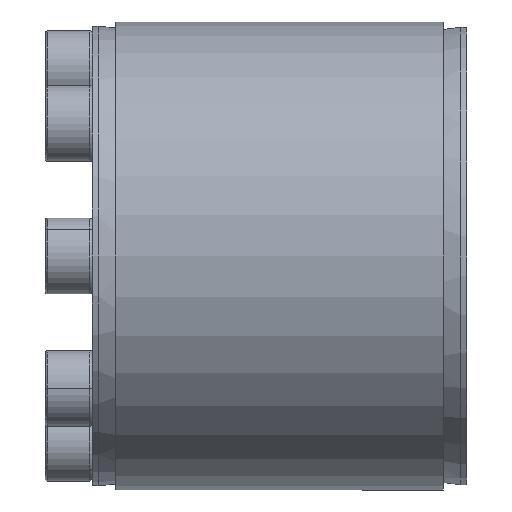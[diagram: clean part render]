
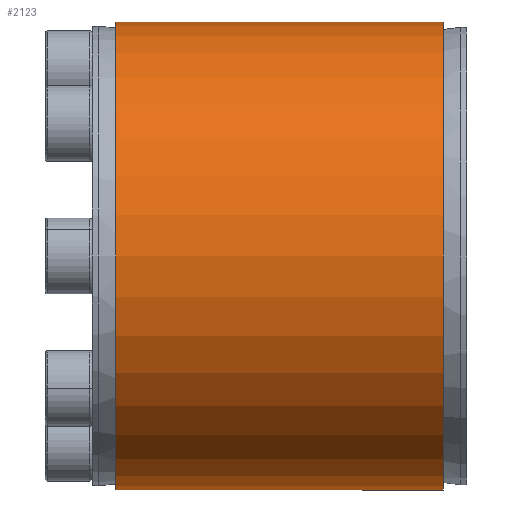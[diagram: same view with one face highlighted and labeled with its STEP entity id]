
A CAD part, front view. The second image highlights one B-rep face of the part: STEP entity #2123.
In plain terms, the highlighted cylindrical face has radius 40 mm (diameter 80 mm), a partial arc.
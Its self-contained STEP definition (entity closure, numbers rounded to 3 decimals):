
#7 = DIRECTION ( 'NONE',  ( -1., 0., 0. ) ) ;
#57 = EDGE_LOOP ( 'NONE', ( #3432, #4943, #5745, #4890 ) ) ;
#63 = DIRECTION ( 'NONE',  ( 0., 0., 1. ) ) ;
#119 = EDGE_CURVE ( 'NONE', #3361, #300, #4865, .T. ) ;
#300 = VERTEX_POINT ( 'NONE', #3541 ) ;
#387 = AXIS2_PLACEMENT_3D ( 'NONE', #6552, #2080, #3524 ) ;
#902 = EDGE_CURVE ( 'NONE', #300, #6403, #3568, .T. ) ;
#986 = CIRCLE ( 'NONE', #4826, 40. ) ;
#1098 = CARTESIAN_POINT ( 'NONE',  ( 28.015, 0., -40. ) ) ;
#1495 = CARTESIAN_POINT ( 'NONE',  ( -28., 0., 0. ) ) ;
#1517 = CARTESIAN_POINT ( 'NONE',  ( -41.053, 0., 40. ) ) ;
#1750 = DIRECTION ( 'NONE',  ( -1., 0., 0. ) ) ;
#1864 = DIRECTION ( 'NONE',  ( -1., 0., 0. ) ) ;
#2080 = DIRECTION ( 'NONE',  ( -1., 0., 0. ) ) ;
#2123 = ADVANCED_FACE ( 'NONE', ( #5486 ), #2759, .T. ) ;
#2148 = CARTESIAN_POINT ( 'NONE',  ( -28., 0., 40. ) ) ;
#2152 = LINE ( 'NONE', #4073, #3603 ) ;
#2605 = CARTESIAN_POINT ( 'NONE',  ( 28.015, 0., 0. ) ) ;
#2638 = AXIS2_PLACEMENT_3D ( 'NONE', #2605, #3037, #4841 ) ;
#2759 = CYLINDRICAL_SURFACE ( 'NONE', #387, 40. ) ;
#3037 = DIRECTION ( 'NONE',  ( -1., 0., 0. ) ) ;
#3361 = VERTEX_POINT ( 'NONE', #1098 ) ;
#3432 = ORIENTED_EDGE ( 'NONE', *, *, #6294, .F. ) ;
#3524 = DIRECTION ( 'NONE',  ( 0., 0., 1. ) ) ;
#3541 = CARTESIAN_POINT ( 'NONE',  ( 28.015, 0., 40. ) ) ;
#3568 = LINE ( 'NONE', #1517, #4282 ) ;
#3603 = VECTOR ( 'NONE', #1750, 1000. ) ;
#4073 = CARTESIAN_POINT ( 'NONE',  ( -41.053, 0., -40. ) ) ;
#4282 = VECTOR ( 'NONE', #1864, 1000. ) ;
#4826 = AXIS2_PLACEMENT_3D ( 'NONE', #1495, #7, #63 ) ;
#4841 = DIRECTION ( 'NONE',  ( 0., 0., 1. ) ) ;
#4865 = CIRCLE ( 'NONE', #2638, 40. ) ;
#4890 = ORIENTED_EDGE ( 'NONE', *, *, #5796, .F. ) ;
#4943 = ORIENTED_EDGE ( 'NONE', *, *, #119, .T. ) ;
#5382 = CARTESIAN_POINT ( 'NONE',  ( -28., 0., -40. ) ) ;
#5486 = FACE_OUTER_BOUND ( 'NONE', #57, .T. ) ;
#5745 = ORIENTED_EDGE ( 'NONE', *, *, #902, .T. ) ;
#5796 = EDGE_CURVE ( 'NONE', #6008, #6403, #986, .T. ) ;
#6008 = VERTEX_POINT ( 'NONE', #5382 ) ;
#6294 = EDGE_CURVE ( 'NONE', #3361, #6008, #2152, .T. ) ;
#6403 = VERTEX_POINT ( 'NONE', #2148 ) ;
#6552 = CARTESIAN_POINT ( 'NONE',  ( -41.053, 0., 0. ) ) ;
